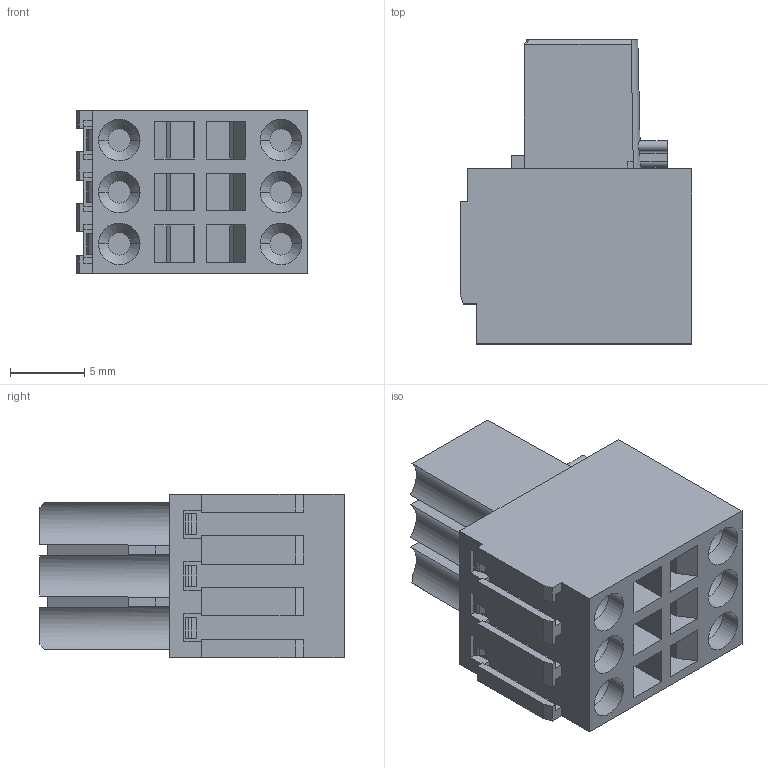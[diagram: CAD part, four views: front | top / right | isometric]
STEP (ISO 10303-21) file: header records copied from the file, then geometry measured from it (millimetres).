
FILE_DESCRIPTION((''),'2;1');
FILE_NAME('3PIN_SW0001','2019-05-15T',('zhenbing.lai'),(''),'CREO PARAMETRIC BY PTC INC, 2016260','CREO PARAMETRIC BY PTC INC, 2016260','');
FILE_SCHEMA(('CONFIG_CONTROL_DESIGN'));
Length unit declared in the file: millimetre
Products named in the file (1): 3PIN_SW0001
Bounding box: 15.6 x 20.5 x 11 mm (x, y, z)
Volume: 2333.2 mm3; surface area: 1808.8 mm2
Topology: 1 solids, 7 shells, 403 faces, 1039 edges, 682 vertices
Faces by surface type: plane 334, cylinder 54, cone 15
Entity records: 12261 total; most frequent: CARTESIAN_POINT 2367, ORIENTED_EDGE 2078, DIRECTION 1932, EDGE_CURVE 1039, VECTOR 848, LINE 848, VERTEX_POINT 682, AXIS2_PLACEMENT_3D 542
